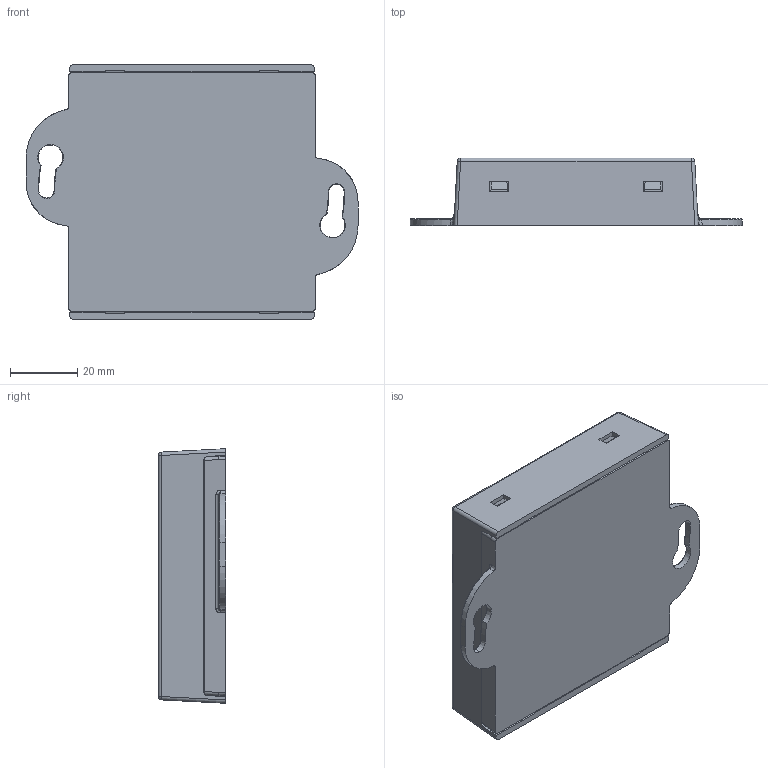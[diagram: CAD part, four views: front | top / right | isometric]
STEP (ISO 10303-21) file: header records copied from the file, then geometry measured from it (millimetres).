
FILE_DESCRIPTION (( 'STEP AP214' ), '1' );
FILE_NAME ('01-0202-0001_SQ4-VA Assembly.STEP', '2021-09-22T15:33:44', ( '' ), ( '' ), 'SwSTEP 2.0', 'SolidWorks 2021', '' );
FILE_SCHEMA (( 'AUTOMOTIVE_DESIGN' ));
Length unit declared in the file: millimetre
Products named in the file (26): APTCV4VAS_08172021_04-15-06.stp; Part6; 01-0202-0101_Bottom Casing; CV4-Board - VW; 3MM-STRUCTURE.stp; RESC6431X63N.stp; LTST-C191KFKT.stp; DIOM7959X262N.stp; CAPC2012X145N.stp; Full-6; Pheonix Contact 1_Purple; USB_MICRO_VERTICAL.stp; Full-6 - Out; RESC1608X84N.stp; TO-252AA.stp; SOD2512X100N.stp; PIC16F15356.stp; SOIC127P600X175-8N.stp; L-DR_125.stp; SOT-23.stp; DBV0006A_M.stp; 106069_asm.stp; 01-0202-0201_Top Casing; Pheonix Contact 1a_Red; 01-0202-0001_SQ4-VA Assembly; Pheonix Contact 1b_Red
Assembly tree (104 placements, depth 4):
  01-0202-0001_SQ4-VA Assembly
    01-0202-0101_Bottom Casing
    01-0202-0201_Top Casing
    CV4-Board - VW
      106069_asm.stp
        APTCV4VAS_08172021_04-15-06.stp
        CAPC2012X145N.stp  x9
        LTST-C191KFKT.stp
        SOD2512X100N.stp
        DIOM7959X262N.stp  x3
        L-DR_125.stp  x4
        TO-252AA.stp  x5
        SOT-23.stp  x3
        RESC1608X84N.stp  x47
        RESC6431X63N.stp  x3
        PIC16F15356.stp
        SOIC127P600X175-8N.stp
        3MM-STRUCTURE.stp
        DBV0006A_M.stp  x4
        USB_MICRO_VERTICAL.stp
      Part6
      Full-6 - Out
        Pheonix Contact 1_Purple  x5
        Pheonix Contact 1b_Red
      Full-6
        Pheonix Contact 1_Purple  x5
        Pheonix Contact 1a_Red
Bounding box: 98.46 x 20 x 75.5 mm (x, y, z)
Volume: 47663.8 mm3; surface area: 54373.5 mm2
Topology: 100 solids, 100 shells, 3867 faces, 9722 edges, 6267 vertices
Faces by surface type: plane 2735, cylinder 726, bspline 366, torus 22, cone 12, sphere 6
Entity records: 39168 total; most frequent: CARTESIAN_POINT 7947, ORIENTED_EDGE 6186, DIRECTION 5993, EDGE_CURVE 3093, VECTOR 2339, LINE 2339, VERTEX_POINT 2008, AXIS2_PLACEMENT_3D 1827
